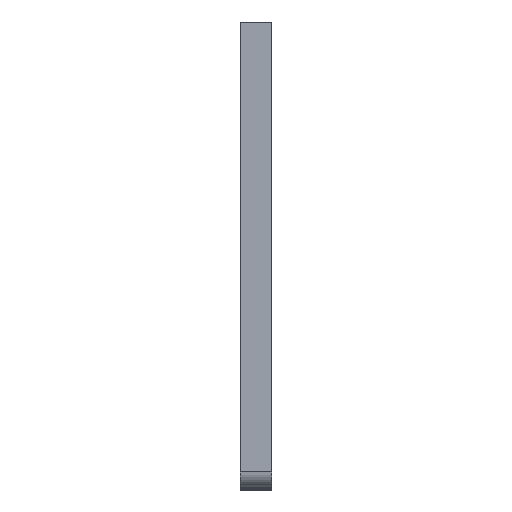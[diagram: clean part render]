
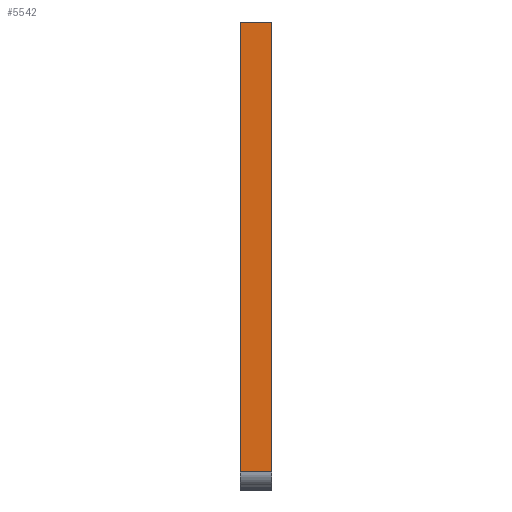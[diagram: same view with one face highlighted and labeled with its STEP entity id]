
A CAD part, top view. The second image highlights one B-rep face of the part: STEP entity #5542.
In plain terms, the highlighted planar face has unit normal (0, 0, 1).
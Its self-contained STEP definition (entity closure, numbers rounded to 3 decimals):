
#5020=CARTESIAN_POINT('Vertex',(-15.,-31.5,91.)) ;
#5023=CARTESIAN_POINT('Line Origine',(-15.,-17.,91.)) ;
#5027=CARTESIAN_POINT('Vertex',(-15.,-2.5,91.)) ;
#5235=CARTESIAN_POINT('Vertex',(-13.,-31.5,91.)) ;
#5298=CARTESIAN_POINT('Vertex',(-13.,-2.5,91.)) ;
#5301=CARTESIAN_POINT('Line Origine',(-13.,-17.,91.)) ;
#5502=CARTESIAN_POINT('Line Origine',(-14.,-2.5,91.)) ;
#5526=CARTESIAN_POINT('Axis2P3D Location',(-15.,-31.5,91.)) ;
#5531=CARTESIAN_POINT('Line Origine',(-14.,-31.5,91.)) ;
#5024=DIRECTION('Vector Direction',(0.,1.,0.)) ;
#5302=DIRECTION('Vector Direction',(0.,1.,0.)) ;
#5503=DIRECTION('Vector Direction',(1.,0.,0.)) ;
#5527=DIRECTION('Axis2P3D Direction',(0.,0.,-1.)) ;
#5528=DIRECTION('Axis2P3D XDirection',(0.,1.,0.)) ;
#5532=DIRECTION('Vector Direction',(1.,0.,0.)) ;
#5529=AXIS2_PLACEMENT_3D('Plane Axis2P3D',#5526,#5527,#5528) ;
#5537=ORIENTED_EDGE('',*,*,#5506,.F.) ;
#5538=ORIENTED_EDGE('',*,*,#5029,.T.) ;
#5539=ORIENTED_EDGE('',*,*,#5535,.T.) ;
#5540=ORIENTED_EDGE('',*,*,#5305,.F.) ;
#5025=VECTOR('Line Direction',#5024,1.) ;
#5303=VECTOR('Line Direction',#5302,1.) ;
#5504=VECTOR('Line Direction',#5503,1.) ;
#5533=VECTOR('Line Direction',#5532,1.) ;
#5542=ADVANCED_FACE('\X2\96F64EF651E04F554F53\X0\',(#5541),#5530,.F.) ;
#5029=EDGE_CURVE('',#5028,#5021,#5026,.F.) ;
#5305=EDGE_CURVE('',#5299,#5236,#5304,.F.) ;
#5506=EDGE_CURVE('',#5028,#5299,#5505,.T.) ;
#5535=EDGE_CURVE('',#5021,#5236,#5534,.T.) ;
#5536=EDGE_LOOP('',(#5537,#5538,#5539,#5540)) ;
#5541=FACE_OUTER_BOUND('',#5536,.T.) ;
#5026=LINE('Line',#5023,#5025) ;
#5304=LINE('Line',#5301,#5303) ;
#5505=LINE('Line',#5502,#5504) ;
#5534=LINE('Line',#5531,#5533) ;
#5530=PLANE('Plane',#5529) ;
#5021=VERTEX_POINT('',#5020) ;
#5028=VERTEX_POINT('',#5027) ;
#5236=VERTEX_POINT('',#5235) ;
#5299=VERTEX_POINT('',#5298) ;
